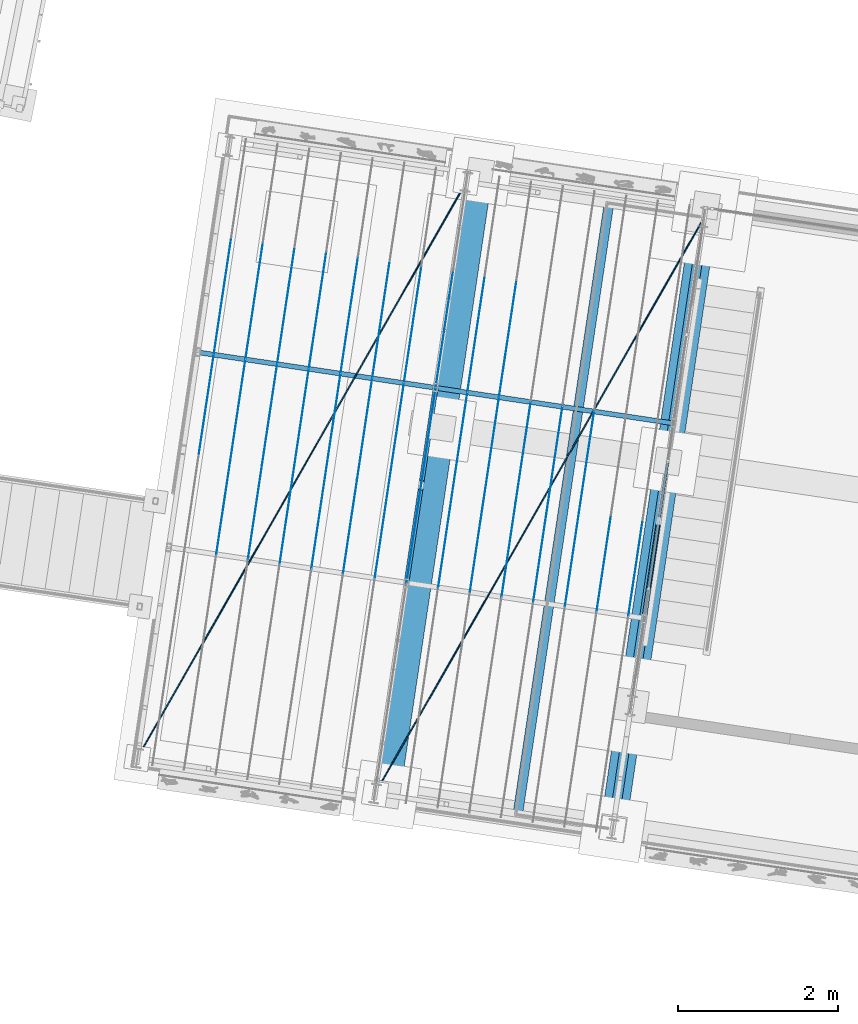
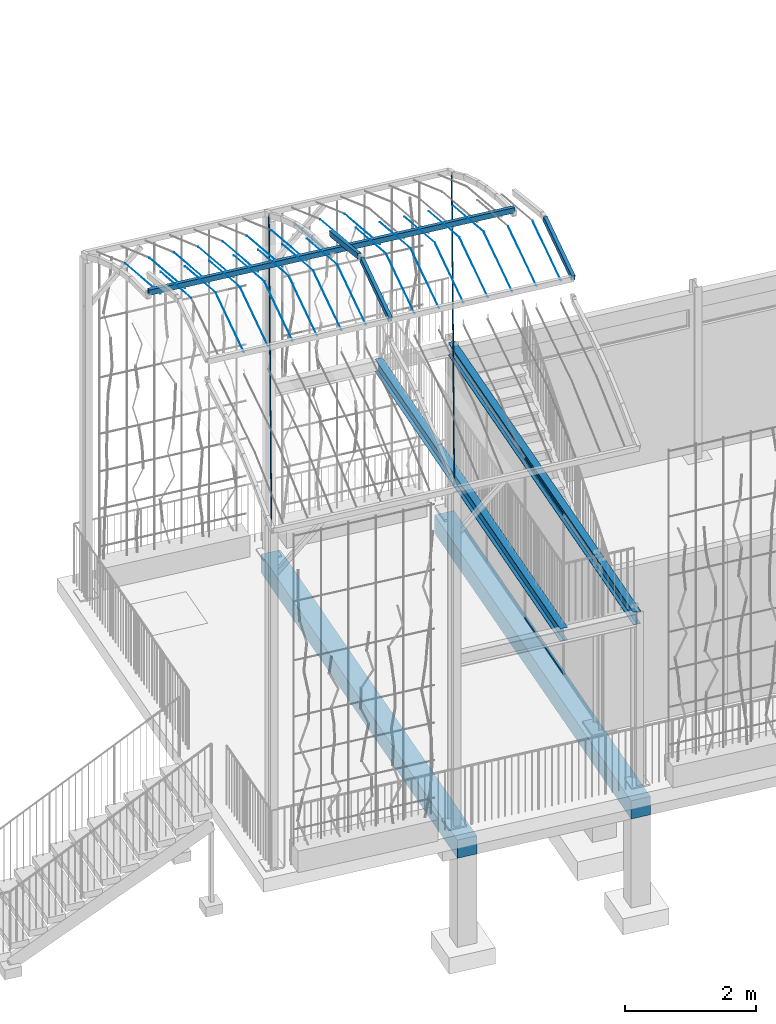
# One storey, part 28 of 142: 44 members, 5 beams, 2 elements without a shape of their own.
"""IFC4 building model written with IfcOpenShell, lengths in metres."""

from ifc_helpers import new_model, si_unit, direction, frame, origin_with_axes, place, context, subcontext, project, spatial, polyline, rectangle, hollow_rectangle, circle, i_section, outline, extrude, material, material_profile, profile_set, profile_usage, type_object, element, aggregate, save


model = new_model("IFC4")

# Units and contexts
model_context = context("Model", 3, precision=1e-05, world=origin_with_axes(), true_north=direction((0.0, 1.0)))
body_context = subcontext(model_context, "Body", "Model", "MODEL_VIEW")
ifc_project = project(units=[si_unit("AREAUNIT", "SQUARE_METRE"), si_unit("VOLUMEUNIT", "CUBIC_METRE"), si_unit("LENGTHUNIT", "METRE")], contexts=[model_context])

# Site, building, storey
site_placement = place(None, origin_with_axes())
site = spatial("IfcSite", under=ifc_project, at=site_placement, Name="Lares · Rua das Mercês · artigo 4771")
building_placement = place(site_placement, frame((15.0, 9.7, 14.65), z_axis=(0.0, 0.0, 1.0), x_axis=(0.989015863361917, -0.147809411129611, 0.0)))
building = spatial("IfcBuilding", under=site, at=building_placement, Name="Casa Sobreposta")
storey_placement = place(building_placement, origin_with_axes())
storey = spatial("IfcBuildingStorey", under=building, at=storey_placement, Name="00 · Habitação e estacionamento", Elevation=14.65)

# Assembly, beams
assembly_1_placement = place(storey_placement, origin_with_axes())
assembly_1 = element("IfcElementAssembly", 1, at=assembly_1_placement, inside=storey, Name="Pérgola · prolongamento da estufa 6 m", ObjectType="PERGOLA_GREENHOUSE_EXTENSION", PredefinedType="USERDEFINED")
ifc_material_1 = material(Name="Aço pintado / Stahl lackiert", Category="steel")
ifc_material_profile_1 = material_profile(ifc_material_1, i_section(OverallWidth=0.12, OverallDepth=0.24, WebThickness=0.0062, FlangeThickness=0.0098))
ifc_profile_set_1 = profile_set([ifc_material_profile_1], Name="IPE240")
ifc_profile_usage_1 = profile_usage(ifc_profile_set_1)
beam_type_1 = type_object("IfcBeamType", Name="IPE240 / steel", PredefinedType="NOTDEFINED", material=ifc_profile_set_1)
beam_1_placement = place(assembly_1_placement, frame((-1.2, -1.44, 3.02), z_axis=(0.0, 1.0, 0.0), x_axis=(1.0, 0.0, 0.0)))
beam_1 = element("IfcBeam", 2, at=beam_1_placement, type_object=beam_type_1, material=ifc_profile_usage_1, Name="Varanda · viga transversal", context=body_context, shape_type="SweptSolid", body=[
    extrude(i_section(OverallWidth=0.12, OverallDepth=0.24, WebThickness=0.0062, FlangeThickness=0.0098), origin_with_axes(), (0.0, 0.0, 1.0), 7.72),
])
ifc_profile_usage_2 = profile_usage(ifc_profile_set_1)
beam_2_placement = place(assembly_1_placement, frame((0.0, -1.44, 3.02), z_axis=(0.0, 1.0, 0.0), x_axis=(1.0, 0.0, 0.0)))
beam_2 = element("IfcBeam", 3, at=beam_2_placement, type_object=beam_type_1, material=ifc_profile_usage_2, Name="Varanda · viga transversal", context=body_context, shape_type="SweptSolid", body=[
    extrude(i_section(OverallWidth=0.12, OverallDepth=0.24, WebThickness=0.0062, FlangeThickness=0.0098), origin_with_axes(), (0.0, 0.0, 1.0), 7.72),
])

# Members
ifc_material_profile_2 = material_profile(ifc_material_1, rectangle(XDim=0.035, YDim=0.035))
ifc_profile_set_2 = profile_set([ifc_material_profile_2], Name="R0.035")
ifc_profile_usage_3 = profile_usage(ifc_profile_set_2)
member_type_1 = type_object("IfcMemberType", Name="R0.035 / steel", PredefinedType="NOTDEFINED", material=ifc_profile_set_2)
member_1_placement = place(storey_placement, frame((0.0, 1.6, 0.0), z_axis=(0.0, 1.0, 0.0), x_axis=(1.0, 0.0, 0.0)))
element("IfcMember", 4, at=member_1_placement, inside=storey, type_object=member_type_1, material=ifc_profile_usage_3, Name="Fachada poente integralmente envidraçada · módulo 2 · travessa", context=body_context, shape_type="SweptSolid", body=[
    extrude(rectangle(XDim=0.035, YDim=0.035), origin_with_axes(), (0.0, 0.0, 1.0), 1.6),
])
ifc_profile_usage_4 = profile_usage(ifc_profile_set_2)
member_2_placement = place(storey_placement, frame((0.0, 1.6, 2.968), z_axis=(0.0, 1.0, 0.0), x_axis=(1.0, 0.0, 0.0)))
element("IfcMember", 5, at=member_2_placement, inside=storey, type_object=member_type_1, material=ifc_profile_usage_4, Name="Fachada poente integralmente envidraçada · módulo 2 · travessa", context=body_context, shape_type="SweptSolid", body=[
    extrude(rectangle(XDim=0.035, YDim=0.035), origin_with_axes(), (0.0, 0.0, 1.0), 1.6),
])

# Member
ifc_material_profile_3 = material_profile(ifc_material_1, hollow_rectangle(XDim=0.06, YDim=0.1, WallThickness=0.004))
ifc_profile_set_3 = profile_set([ifc_material_profile_3], Name="RHS100x60x4")
ifc_profile_usage_5 = profile_usage(ifc_profile_set_3)
member_type_2 = type_object("IfcMemberType", Name="RHS100x60x4 / steel", PredefinedType="NOTDEFINED", material=ifc_profile_set_3)
member_3_placement = place(assembly_1_placement, frame((-3.0, 1.22042020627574, 7.62067689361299), z_axis=(0.0, 0.960073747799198, 0.279747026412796), x_axis=(1.0, 0.0, 0.0)))
member_3 = element("IfcMember", 6, at=member_3_placement, type_object=member_type_2, material=ifc_profile_usage_5, Name="Pérgola · arco contínuo com a estufa", context=body_context, shape_type="SweptSolid", body=[
    extrude(hollow_rectangle(XDim=0.06, YDim=0.1, WallThickness=0.004), origin_with_axes(), (0.0, 0.0, 1.0), 1.23148937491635),
])

ifc_profile_usage_6 = profile_usage(ifc_profile_set_3)
member_4_placement = place(assembly_1_placement, frame((-3.0, 2.49770027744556, 7.96518238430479), z_axis=(0.0, 0.96007374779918, -0.279747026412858), x_axis=(1.0, 0.0, 0.0)))
member_4 = element("IfcMember", 7, at=member_4_placement, type_object=member_type_2, material=ifc_profile_usage_6, Name="Pérgola · arco contínuo com a estufa", context=body_context, shape_type="SweptSolid", body=[
    extrude(hollow_rectangle(XDim=0.06, YDim=0.1, WallThickness=0.004), origin_with_axes(), (0.0, 0.0, 1.0), 1.23148937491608),
])

ifc_profile_usage_7 = profile_usage(ifc_profile_set_3)
member_5_placement = place(assembly_1_placement, frame((0.0, 1.22042020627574, 7.62067689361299), z_axis=(0.0, 0.960073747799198, 0.279747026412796), x_axis=(1.0, 0.0, 0.0)))
member_5 = element("IfcMember", 8, at=member_5_placement, type_object=member_type_2, material=ifc_profile_usage_7, Name="Pérgola · arco contínuo com a estufa", context=body_context, shape_type="SweptSolid", body=[
    extrude(hollow_rectangle(XDim=0.06, YDim=0.1, WallThickness=0.004), origin_with_axes(), (0.0, 0.0, 1.0), 1.23148937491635),
])

# Beam
ifc_material_profile_4 = material_profile(ifc_material_1, hollow_rectangle(XDim=0.06, YDim=0.1, WallThickness=0.004))
ifc_profile_set_4 = profile_set([ifc_material_profile_4], Name="RHS100x60x4")
ifc_profile_usage_8 = profile_usage(ifc_profile_set_4)
beam_type_2 = type_object("IfcBeamType", Name="RHS100x60x4 / steel", PredefinedType="NOTDEFINED", material=ifc_profile_set_4)
beam_3_placement = place(assembly_1_placement, frame((-6.0, 3.68002089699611, 7.30067689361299), z_axis=(1.0, 0.0, 0.0), x_axis=(0.0, -1.0, 0.0)))
beam_3 = element("IfcBeam", 9, at=beam_3_placement, type_object=beam_type_2, material=ifc_profile_usage_8, Name="Pérgola · terça", context=body_context, shape_type="SweptSolid", body=[
    extrude(hollow_rectangle(XDim=0.06, YDim=0.1, WallThickness=0.004), origin_with_axes(), (0.0, 0.0, 1.0), 6.0),
])

# Member
ifc_material_profile_5 = material_profile(ifc_material_1, circle(Radius=0.008))
ifc_profile_set_5 = profile_set([ifc_material_profile_5], Name="D0.016")
ifc_profile_usage_9 = profile_usage(ifc_profile_set_5)
member_type_3 = type_object("IfcMemberType", Name="D0.016 / steel", PredefinedType="NOTDEFINED", material=ifc_profile_set_5)
member_6_placement = place(assembly_1_placement, frame((-6.0, -1.44, 6.28), z_axis=(0.362213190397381, 0.932095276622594, 0.0), x_axis=(0.932095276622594, -0.362213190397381, 0.0)))
member_6 = element("IfcMember", 10, at=member_6_placement, type_object=member_type_3, material=ifc_profile_usage_9, Name="Pérgola · tirante em cobertura", context=body_context, shape_type="SweptSolid", body=[
    extrude(circle(Radius=0.008), origin_with_axes(), (0.0, 0.0, 1.0), 8.28241510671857),
])

ifc_profile_usage_10 = profile_usage(ifc_profile_set_5)
member_7_placement = place(assembly_1_placement, frame((-3.0, -1.44, 6.28), z_axis=(0.362213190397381, 0.932095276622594, 0.0), x_axis=(0.932095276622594, -0.362213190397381, 0.0)))
member_7 = element("IfcMember", 11, at=member_7_placement, type_object=member_type_3, material=ifc_profile_usage_10, Name="Pérgola · tirante em cobertura", context=body_context, shape_type="SweptSolid", body=[
    extrude(circle(Radius=0.008), origin_with_axes(), (0.0, 0.0, 1.0), 8.28241510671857),
])

ifc_material_2 = material(Name="Aço galvanizado / Stahl verzinkt", Category="steel")
ifc_material_profile_6 = material_profile(ifc_material_2, circle(Radius=0.002))
ifc_profile_set_6 = profile_set([ifc_material_profile_6], Name="D0.004")
ifc_profile_usage_11 = profile_usage(ifc_profile_set_6)
member_type_4 = type_object("IfcMemberType", Name="D0.004 / galvanized", PredefinedType="NOTDEFINED", material=ifc_profile_set_6)
member_8_placement = place(assembly_1_placement, frame((-5.8, 2.40274082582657, 7.96518238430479), z_axis=(0.0, 0.965497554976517, -0.260412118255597), x_axis=(1.0, 0.0, 0.0)))
member_8 = element("IfcMember", 12, at=member_8_placement, type_object=member_type_4, material=ifc_profile_usage_11, Name="Pérgola · fio para trepadeiras", context=body_context, shape_type="SweptSolid", body=[
    extrude(circle(Radius=0.002), origin_with_axes(), (0.0, 0.0, 1.0), 1.32292419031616),
])

ifc_profile_usage_12 = profile_usage(ifc_profile_set_6)
member_9_placement = place(assembly_1_placement, frame((-5.8, 3.68573096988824, 7.21327919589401), z_axis=(0.0, 0.965357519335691, -0.260930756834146), x_axis=(1.0, 0.0, 0.0)))
member_9 = element("IfcMember", 13, at=member_9_placement, type_object=member_type_4, material=ifc_profile_usage_12, Name="Pérgola · fio para trepadeiras", context=body_context, shape_type="SweptSolid", body=[
    extrude(circle(Radius=0.002), origin_with_axes(), (0.0, 0.0, 1.0), 1.523553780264),
])

ifc_profile_usage_13 = profile_usage(ifc_profile_set_6)
member_10_placement = place(assembly_1_placement, frame((-5.4, 1.22042020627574, 7.62067689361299), z_axis=(0.0, 0.960073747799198, 0.279747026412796), x_axis=(1.0, 0.0, 0.0)))
member_10 = element("IfcMember", 14, at=member_10_placement, type_object=member_type_4, material=ifc_profile_usage_13, Name="Pérgola · fio para trepadeiras", context=body_context, shape_type="SweptSolid", body=[
    extrude(circle(Radius=0.002), origin_with_axes(), (0.0, 0.0, 1.0), 1.23148937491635),
])

ifc_profile_usage_14 = profile_usage(ifc_profile_set_6)
member_11_placement = place(assembly_1_placement, frame((-5.4, 2.40274082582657, 7.96518238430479), z_axis=(0.0, 0.965497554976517, -0.260412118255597), x_axis=(1.0, 0.0, 0.0)))
member_11 = element("IfcMember", 15, at=member_11_placement, type_object=member_type_4, material=ifc_profile_usage_14, Name="Pérgola · fio para trepadeiras", context=body_context, shape_type="SweptSolid", body=[
    extrude(circle(Radius=0.002), origin_with_axes(), (0.0, 0.0, 1.0), 1.32292419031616),
])

ifc_profile_usage_15 = profile_usage(ifc_profile_set_6)
member_12_placement = place(assembly_1_placement, frame((-5.4, 3.68573096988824, 7.21327919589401), z_axis=(0.0, 0.965357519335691, -0.260930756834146), x_axis=(1.0, 0.0, 0.0)))
member_12 = element("IfcMember", 16, at=member_12_placement, type_object=member_type_4, material=ifc_profile_usage_15, Name="Pérgola · fio para trepadeiras", context=body_context, shape_type="SweptSolid", body=[
    extrude(circle(Radius=0.002), origin_with_axes(), (0.0, 0.0, 1.0), 1.523553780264),
])

ifc_profile_usage_16 = profile_usage(ifc_profile_set_6)
member_13_placement = place(assembly_1_placement, frame((-5.0, 1.22042020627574, 7.62067689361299), z_axis=(0.0, 0.960073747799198, 0.279747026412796), x_axis=(1.0, 0.0, 0.0)))
member_13 = element("IfcMember", 17, at=member_13_placement, type_object=member_type_4, material=ifc_profile_usage_16, Name="Pérgola · fio para trepadeiras", context=body_context, shape_type="SweptSolid", body=[
    extrude(circle(Radius=0.002), origin_with_axes(), (0.0, 0.0, 1.0), 1.23148937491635),
])

ifc_profile_usage_17 = profile_usage(ifc_profile_set_6)
member_14_placement = place(assembly_1_placement, frame((-5.0, 2.40274082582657, 7.96518238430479), z_axis=(0.0, 0.965497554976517, -0.260412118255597), x_axis=(1.0, 0.0, 0.0)))
member_14 = element("IfcMember", 18, at=member_14_placement, type_object=member_type_4, material=ifc_profile_usage_17, Name="Pérgola · fio para trepadeiras", context=body_context, shape_type="SweptSolid", body=[
    extrude(circle(Radius=0.002), origin_with_axes(), (0.0, 0.0, 1.0), 1.32292419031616),
])

ifc_profile_usage_18 = profile_usage(ifc_profile_set_6)
member_15_placement = place(assembly_1_placement, frame((-5.0, 3.68573096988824, 7.21327919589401), z_axis=(0.0, 0.965357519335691, -0.260930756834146), x_axis=(1.0, 0.0, 0.0)))
member_15 = element("IfcMember", 19, at=member_15_placement, type_object=member_type_4, material=ifc_profile_usage_18, Name="Pérgola · fio para trepadeiras", context=body_context, shape_type="SweptSolid", body=[
    extrude(circle(Radius=0.002), origin_with_axes(), (0.0, 0.0, 1.0), 1.523553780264),
])

ifc_profile_usage_19 = profile_usage(ifc_profile_set_6)
member_16_placement = place(assembly_1_placement, frame((-4.6, 1.22042020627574, 7.62067689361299), z_axis=(0.0, 0.960073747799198, 0.279747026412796), x_axis=(1.0, 0.0, 0.0)))
member_16 = element("IfcMember", 20, at=member_16_placement, type_object=member_type_4, material=ifc_profile_usage_19, Name="Pérgola · fio para trepadeiras", context=body_context, shape_type="SweptSolid", body=[
    extrude(circle(Radius=0.002), origin_with_axes(), (0.0, 0.0, 1.0), 1.23148937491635),
])

ifc_profile_usage_20 = profile_usage(ifc_profile_set_6)
member_17_placement = place(assembly_1_placement, frame((-4.6, 2.40274082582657, 7.96518238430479), z_axis=(0.0, 0.965497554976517, -0.260412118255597), x_axis=(1.0, 0.0, 0.0)))
member_17 = element("IfcMember", 21, at=member_17_placement, type_object=member_type_4, material=ifc_profile_usage_20, Name="Pérgola · fio para trepadeiras", context=body_context, shape_type="SweptSolid", body=[
    extrude(circle(Radius=0.002), origin_with_axes(), (0.0, 0.0, 1.0), 1.32292419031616),
])

ifc_profile_usage_21 = profile_usage(ifc_profile_set_6)
member_18_placement = place(assembly_1_placement, frame((-4.6, 3.68573096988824, 7.21327919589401), z_axis=(0.0, 0.965357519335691, -0.260930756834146), x_axis=(1.0, 0.0, 0.0)))
member_18 = element("IfcMember", 22, at=member_18_placement, type_object=member_type_4, material=ifc_profile_usage_21, Name="Pérgola · fio para trepadeiras", context=body_context, shape_type="SweptSolid", body=[
    extrude(circle(Radius=0.002), origin_with_axes(), (0.0, 0.0, 1.0), 1.523553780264),
])

ifc_profile_usage_22 = profile_usage(ifc_profile_set_6)
member_19_placement = place(assembly_1_placement, frame((-4.2, 1.22042020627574, 7.62067689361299), z_axis=(0.0, 0.960073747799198, 0.279747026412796), x_axis=(1.0, 0.0, 0.0)))
member_19 = element("IfcMember", 23, at=member_19_placement, type_object=member_type_4, material=ifc_profile_usage_22, Name="Pérgola · fio para trepadeiras", context=body_context, shape_type="SweptSolid", body=[
    extrude(circle(Radius=0.002), origin_with_axes(), (0.0, 0.0, 1.0), 1.23148937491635),
])

ifc_profile_usage_23 = profile_usage(ifc_profile_set_6)
member_20_placement = place(assembly_1_placement, frame((-4.2, 2.40274082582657, 7.96518238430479), z_axis=(0.0, 0.965497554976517, -0.260412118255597), x_axis=(1.0, 0.0, 0.0)))
member_20 = element("IfcMember", 24, at=member_20_placement, type_object=member_type_4, material=ifc_profile_usage_23, Name="Pérgola · fio para trepadeiras", context=body_context, shape_type="SweptSolid", body=[
    extrude(circle(Radius=0.002), origin_with_axes(), (0.0, 0.0, 1.0), 1.32292419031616),
])

ifc_profile_usage_24 = profile_usage(ifc_profile_set_6)
member_21_placement = place(assembly_1_placement, frame((-4.2, 3.68573096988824, 7.21327919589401), z_axis=(0.0, 0.965357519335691, -0.260930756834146), x_axis=(1.0, 0.0, 0.0)))
member_21 = element("IfcMember", 25, at=member_21_placement, type_object=member_type_4, material=ifc_profile_usage_24, Name="Pérgola · fio para trepadeiras", context=body_context, shape_type="SweptSolid", body=[
    extrude(circle(Radius=0.002), origin_with_axes(), (0.0, 0.0, 1.0), 1.523553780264),
])

ifc_profile_usage_25 = profile_usage(ifc_profile_set_6)
member_22_placement = place(assembly_1_placement, frame((-3.8, 1.22042020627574, 7.62067689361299), z_axis=(0.0, 0.960073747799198, 0.279747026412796), x_axis=(1.0, 0.0, 0.0)))
member_22 = element("IfcMember", 26, at=member_22_placement, type_object=member_type_4, material=ifc_profile_usage_25, Name="Pérgola · fio para trepadeiras", context=body_context, shape_type="SweptSolid", body=[
    extrude(circle(Radius=0.002), origin_with_axes(), (0.0, 0.0, 1.0), 1.23148937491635),
])

ifc_profile_usage_26 = profile_usage(ifc_profile_set_6)
member_23_placement = place(assembly_1_placement, frame((-3.8, 2.40274082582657, 7.96518238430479), z_axis=(0.0, 0.965497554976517, -0.260412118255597), x_axis=(1.0, 0.0, 0.0)))
member_23 = element("IfcMember", 27, at=member_23_placement, type_object=member_type_4, material=ifc_profile_usage_26, Name="Pérgola · fio para trepadeiras", context=body_context, shape_type="SweptSolid", body=[
    extrude(circle(Radius=0.002), origin_with_axes(), (0.0, 0.0, 1.0), 1.32292419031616),
])

ifc_profile_usage_27 = profile_usage(ifc_profile_set_6)
member_24_placement = place(assembly_1_placement, frame((-3.8, 3.68573096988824, 7.21327919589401), z_axis=(0.0, 0.965357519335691, -0.260930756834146), x_axis=(1.0, 0.0, 0.0)))
member_24 = element("IfcMember", 28, at=member_24_placement, type_object=member_type_4, material=ifc_profile_usage_27, Name="Pérgola · fio para trepadeiras", context=body_context, shape_type="SweptSolid", body=[
    extrude(circle(Radius=0.002), origin_with_axes(), (0.0, 0.0, 1.0), 1.523553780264),
])

ifc_profile_usage_28 = profile_usage(ifc_profile_set_6)
member_25_placement = place(assembly_1_placement, frame((-3.4, 1.22042020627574, 7.62067689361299), z_axis=(0.0, 0.960073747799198, 0.279747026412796), x_axis=(1.0, 0.0, 0.0)))
member_25 = element("IfcMember", 29, at=member_25_placement, type_object=member_type_4, material=ifc_profile_usage_28, Name="Pérgola · fio para trepadeiras", context=body_context, shape_type="SweptSolid", body=[
    extrude(circle(Radius=0.002), origin_with_axes(), (0.0, 0.0, 1.0), 1.23148937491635),
])

ifc_profile_usage_29 = profile_usage(ifc_profile_set_6)
member_26_placement = place(assembly_1_placement, frame((-3.4, 2.40274082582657, 7.96518238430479), z_axis=(0.0, 0.965497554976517, -0.260412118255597), x_axis=(1.0, 0.0, 0.0)))
member_26 = element("IfcMember", 30, at=member_26_placement, type_object=member_type_4, material=ifc_profile_usage_29, Name="Pérgola · fio para trepadeiras", context=body_context, shape_type="SweptSolid", body=[
    extrude(circle(Radius=0.002), origin_with_axes(), (0.0, 0.0, 1.0), 1.32292419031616),
])

ifc_profile_usage_30 = profile_usage(ifc_profile_set_6)
member_27_placement = place(assembly_1_placement, frame((-3.4, 3.68573096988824, 7.21327919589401), z_axis=(0.0, 0.965357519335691, -0.260930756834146), x_axis=(1.0, 0.0, 0.0)))
member_27 = element("IfcMember", 31, at=member_27_placement, type_object=member_type_4, material=ifc_profile_usage_30, Name="Pérgola · fio para trepadeiras", context=body_context, shape_type="SweptSolid", body=[
    extrude(circle(Radius=0.002), origin_with_axes(), (0.0, 0.0, 1.0), 1.523553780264),
])

ifc_profile_usage_31 = profile_usage(ifc_profile_set_6)
member_28_placement = place(assembly_1_placement, frame((-3.0, 1.22042020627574, 7.62067689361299), z_axis=(0.0, 0.960073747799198, 0.279747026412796), x_axis=(1.0, 0.0, 0.0)))
member_28 = element("IfcMember", 32, at=member_28_placement, type_object=member_type_4, material=ifc_profile_usage_31, Name="Pérgola · fio para trepadeiras", context=body_context, shape_type="SweptSolid", body=[
    extrude(circle(Radius=0.002), origin_with_axes(), (0.0, 0.0, 1.0), 1.23148937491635),
])

ifc_profile_usage_32 = profile_usage(ifc_profile_set_6)
member_29_placement = place(assembly_1_placement, frame((-3.0, 2.40274082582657, 7.96518238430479), z_axis=(0.0, 0.965497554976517, -0.260412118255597), x_axis=(1.0, 0.0, 0.0)))
member_29 = element("IfcMember", 33, at=member_29_placement, type_object=member_type_4, material=ifc_profile_usage_32, Name="Pérgola · fio para trepadeiras", context=body_context, shape_type="SweptSolid", body=[
    extrude(circle(Radius=0.002), origin_with_axes(), (0.0, 0.0, 1.0), 1.32292419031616),
])

ifc_profile_usage_33 = profile_usage(ifc_profile_set_6)
member_30_placement = place(assembly_1_placement, frame((-3.0, 3.68573096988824, 7.21327919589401), z_axis=(0.0, 0.965357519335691, -0.260930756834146), x_axis=(1.0, 0.0, 0.0)))
member_30 = element("IfcMember", 34, at=member_30_placement, type_object=member_type_4, material=ifc_profile_usage_33, Name="Pérgola · fio para trepadeiras", context=body_context, shape_type="SweptSolid", body=[
    extrude(circle(Radius=0.002), origin_with_axes(), (0.0, 0.0, 1.0), 1.523553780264),
])

ifc_profile_usage_34 = profile_usage(ifc_profile_set_6)
member_31_placement = place(assembly_1_placement, frame((-2.6, 1.22042020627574, 7.62067689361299), z_axis=(0.0, 0.960073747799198, 0.279747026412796), x_axis=(1.0, 0.0, 0.0)))
member_31 = element("IfcMember", 35, at=member_31_placement, type_object=member_type_4, material=ifc_profile_usage_34, Name="Pérgola · fio para trepadeiras", context=body_context, shape_type="SweptSolid", body=[
    extrude(circle(Radius=0.002), origin_with_axes(), (0.0, 0.0, 1.0), 1.23148937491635),
])

ifc_profile_usage_35 = profile_usage(ifc_profile_set_6)
member_32_placement = place(assembly_1_placement, frame((-2.6, 2.40274082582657, 7.96518238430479), z_axis=(0.0, 0.965497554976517, -0.260412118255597), x_axis=(1.0, 0.0, 0.0)))
member_32 = element("IfcMember", 36, at=member_32_placement, type_object=member_type_4, material=ifc_profile_usage_35, Name="Pérgola · fio para trepadeiras", context=body_context, shape_type="SweptSolid", body=[
    extrude(circle(Radius=0.002), origin_with_axes(), (0.0, 0.0, 1.0), 1.32292419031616),
])

ifc_profile_usage_36 = profile_usage(ifc_profile_set_6)
member_33_placement = place(assembly_1_placement, frame((-2.6, 3.68573096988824, 7.21327919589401), z_axis=(0.0, 0.965357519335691, -0.260930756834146), x_axis=(1.0, 0.0, 0.0)))
member_33 = element("IfcMember", 37, at=member_33_placement, type_object=member_type_4, material=ifc_profile_usage_36, Name="Pérgola · fio para trepadeiras", context=body_context, shape_type="SweptSolid", body=[
    extrude(circle(Radius=0.002), origin_with_axes(), (0.0, 0.0, 1.0), 1.523553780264),
])

ifc_profile_usage_37 = profile_usage(ifc_profile_set_6)
member_34_placement = place(assembly_1_placement, frame((-2.2, 1.22042020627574, 7.62067689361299), z_axis=(0.0, 0.960073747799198, 0.279747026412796), x_axis=(1.0, 0.0, 0.0)))
member_34 = element("IfcMember", 38, at=member_34_placement, type_object=member_type_4, material=ifc_profile_usage_37, Name="Pérgola · fio para trepadeiras", context=body_context, shape_type="SweptSolid", body=[
    extrude(circle(Radius=0.002), origin_with_axes(), (0.0, 0.0, 1.0), 1.23148937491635),
])

ifc_profile_usage_38 = profile_usage(ifc_profile_set_6)
member_35_placement = place(assembly_1_placement, frame((-2.2, 2.40274082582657, 7.96518238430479), z_axis=(0.0, 0.965497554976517, -0.260412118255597), x_axis=(1.0, 0.0, 0.0)))
member_35 = element("IfcMember", 39, at=member_35_placement, type_object=member_type_4, material=ifc_profile_usage_38, Name="Pérgola · fio para trepadeiras", context=body_context, shape_type="SweptSolid", body=[
    extrude(circle(Radius=0.002), origin_with_axes(), (0.0, 0.0, 1.0), 1.32292419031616),
])

ifc_profile_usage_39 = profile_usage(ifc_profile_set_6)
member_36_placement = place(assembly_1_placement, frame((-2.2, 3.68573096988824, 7.21327919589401), z_axis=(0.0, 0.965357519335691, -0.260930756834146), x_axis=(1.0, 0.0, 0.0)))
member_36 = element("IfcMember", 40, at=member_36_placement, type_object=member_type_4, material=ifc_profile_usage_39, Name="Pérgola · fio para trepadeiras", context=body_context, shape_type="SweptSolid", body=[
    extrude(circle(Radius=0.002), origin_with_axes(), (0.0, 0.0, 1.0), 1.523553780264),
])

ifc_profile_usage_40 = profile_usage(ifc_profile_set_6)
member_37_placement = place(assembly_1_placement, frame((-1.8, 1.22042020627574, 7.62067689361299), z_axis=(0.0, 0.960073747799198, 0.279747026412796), x_axis=(1.0, 0.0, 0.0)))
member_37 = element("IfcMember", 41, at=member_37_placement, type_object=member_type_4, material=ifc_profile_usage_40, Name="Pérgola · fio para trepadeiras", context=body_context, shape_type="SweptSolid", body=[
    extrude(circle(Radius=0.002), origin_with_axes(), (0.0, 0.0, 1.0), 1.23148937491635),
])

ifc_profile_usage_41 = profile_usage(ifc_profile_set_6)
member_38_placement = place(assembly_1_placement, frame((-1.8, 2.40274082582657, 7.96518238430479), z_axis=(0.0, 0.965497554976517, -0.260412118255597), x_axis=(1.0, 0.0, 0.0)))
member_38 = element("IfcMember", 42, at=member_38_placement, type_object=member_type_4, material=ifc_profile_usage_41, Name="Pérgola · fio para trepadeiras", context=body_context, shape_type="SweptSolid", body=[
    extrude(circle(Radius=0.002), origin_with_axes(), (0.0, 0.0, 1.0), 1.32292419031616),
])

ifc_profile_usage_42 = profile_usage(ifc_profile_set_6)
member_39_placement = place(assembly_1_placement, frame((-1.4, 1.22042020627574, 7.62067689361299), z_axis=(0.0, 0.960073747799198, 0.279747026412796), x_axis=(1.0, 0.0, 0.0)))
member_39 = element("IfcMember", 43, at=member_39_placement, type_object=member_type_4, material=ifc_profile_usage_42, Name="Pérgola · fio para trepadeiras", context=body_context, shape_type="SweptSolid", body=[
    extrude(circle(Radius=0.002), origin_with_axes(), (0.0, 0.0, 1.0), 1.23148937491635),
])

ifc_profile_usage_43 = profile_usage(ifc_profile_set_6)
member_40_placement = place(assembly_1_placement, frame((-1.4, 2.40274082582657, 7.96518238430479), z_axis=(0.0, 0.965497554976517, -0.260412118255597), x_axis=(1.0, 0.0, 0.0)))
member_40 = element("IfcMember", 44, at=member_40_placement, type_object=member_type_4, material=ifc_profile_usage_43, Name="Pérgola · fio para trepadeiras", context=body_context, shape_type="SweptSolid", body=[
    extrude(circle(Radius=0.002), origin_with_axes(), (0.0, 0.0, 1.0), 1.32292419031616),
])

ifc_profile_usage_44 = profile_usage(ifc_profile_set_6)
member_41_placement = place(assembly_1_placement, frame((-0.999999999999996, 1.22042020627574, 7.62067689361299), z_axis=(0.0, 0.960073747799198, 0.279747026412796), x_axis=(1.0, 0.0, 0.0)))
member_41 = element("IfcMember", 45, at=member_41_placement, type_object=member_type_4, material=ifc_profile_usage_44, Name="Pérgola · fio para trepadeiras", context=body_context, shape_type="SweptSolid", body=[
    extrude(circle(Radius=0.002), origin_with_axes(), (0.0, 0.0, 1.0), 1.23148937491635),
])

ifc_profile_usage_45 = profile_usage(ifc_profile_set_6)
member_42_placement = place(assembly_1_placement, frame((-0.999999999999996, 2.40274082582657, 7.96518238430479), z_axis=(0.0, 0.965497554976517, -0.260412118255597), x_axis=(1.0, 0.0, 0.0)))
member_42 = element("IfcMember", 46, at=member_42_placement, type_object=member_type_4, material=ifc_profile_usage_45, Name="Pérgola · fio para trepadeiras", context=body_context, shape_type="SweptSolid", body=[
    extrude(circle(Radius=0.002), origin_with_axes(), (0.0, 0.0, 1.0), 1.32292419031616),
])

ifc_profile_usage_46 = profile_usage(ifc_profile_set_6)
member_43_placement = place(assembly_1_placement, frame((-0.599999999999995, 1.22042020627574, 7.62067689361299), z_axis=(0.0, 0.960073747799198, 0.279747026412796), x_axis=(1.0, 0.0, 0.0)))
member_43 = element("IfcMember", 47, at=member_43_placement, type_object=member_type_4, material=ifc_profile_usage_46, Name="Pérgola · fio para trepadeiras", context=body_context, shape_type="SweptSolid", body=[
    extrude(circle(Radius=0.002), origin_with_axes(), (0.0, 0.0, 1.0), 1.23148937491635),
])

ifc_profile_usage_47 = profile_usage(ifc_profile_set_6)
member_44_placement = place(assembly_1_placement, frame((-0.199999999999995, 1.22042020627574, 7.62067689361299), z_axis=(0.0, 0.960073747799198, 0.279747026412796), x_axis=(1.0, 0.0, 0.0)))
member_44 = element("IfcMember", 48, at=member_44_placement, type_object=member_type_4, material=ifc_profile_usage_47, Name="Pérgola · fio para trepadeiras", context=body_context, shape_type="SweptSolid", body=[
    extrude(circle(Radius=0.002), origin_with_axes(), (0.0, 0.0, 1.0), 1.23148937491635),
])

aggregate(assembly_1, [member_3, member_4, member_5, beam_3, member_6, member_7, member_8, member_9, member_10, member_11, member_12, member_13, member_14, member_15, member_16, member_17, member_18, member_19, member_20, member_21, member_22, member_23, member_24, member_25, member_26, member_27, member_28, member_29, member_30, member_31, member_32, member_33, member_34, member_35, member_36, member_37, member_38, member_39, member_40, member_41, member_42, member_43, member_44, beam_1, beam_2])

# Assembly, beams
assembly_2_placement = place(storey_placement, origin_with_axes())
assembly_2 = element("IfcElementAssembly", 49, at=assembly_2_placement, inside=storey, Name="Pódio · terraço, casa térrea e cisterna", ObjectType="CISTERN_PODIUM", PredefinedType="USERDEFINED")
ifc_material_3 = material(Name="Betão armado / Stahlbeton", Category="concrete")
beam_4_placement = place(assembly_2_placement, frame((0.0, 0.0, -0.59), z_axis=(0.0, 0.0, 1.0), x_axis=(1.0, 0.0, 0.0)))
beam_4 = element("IfcBeam", 50, at=beam_4_placement, material=ifc_material_3, Name="Pódio suspenso · viga transversal", context=body_context, shape_type="SweptSolid", body=[
    extrude(outline(polyline([(-2.69, -1.59), (-2.69, 6.59), (-3.01, 6.59), (-3.01, -1.59), (-2.69, -1.59)])), origin_with_axes(), (0.0, 0.0, 1.0), 0.34),
])
beam_5_placement = place(assembly_2_placement, frame((0.0, 0.0, -0.59), z_axis=(0.0, 0.0, 1.0), x_axis=(1.0, 0.0, 0.0)))
beam_5 = element("IfcBeam", 51, at=beam_5_placement, material=ifc_material_3, Name="Pódio suspenso · viga transversal", context=body_context, shape_type="SweptSolid", body=[
    extrude(outline(polyline([(0.16, -1.59), (0.16, 6.59), (-0.16, 6.59), (-0.16, -1.59), (0.16, -1.59)])), origin_with_axes(), (0.0, 0.0, 1.0), 0.34),
])
aggregate(assembly_2, [beam_4, beam_5])

save(model, "model.ifc")
